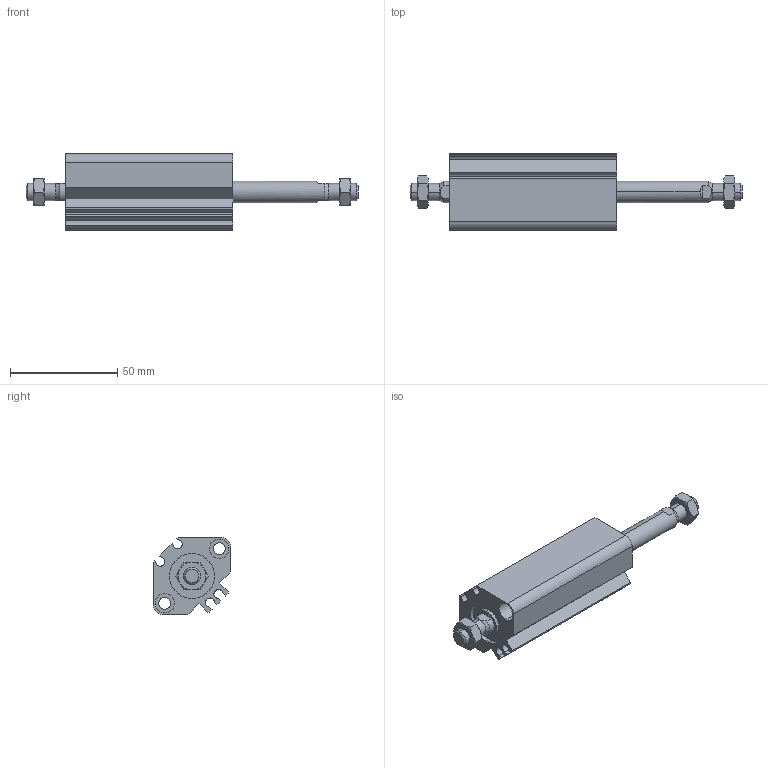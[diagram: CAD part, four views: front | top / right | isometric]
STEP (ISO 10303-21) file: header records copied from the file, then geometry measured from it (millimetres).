
FILE_DESCRIPTION (( 'STEP AP203' ), '1' );
FILE_NAME ('CCMB20-40M-P.STEP', '2020-08-10T11:22:17', ( '' ), ( '' ), 'SwSTEP 2.0', 'SolidWorks 2019', '' );
FILE_SCHEMA (( 'CONFIG_CONTROL_DESIGN' ));
Length unit declared in the file: millimetre
Products named in the file (1): CCMB20-40M-P
Bounding box: 155 x 36 x 36 mm (x, y, z)
Volume: 72479.3 mm3; surface area: 30154.9 mm2
Topology: 4 solids, 4 shells, 166 faces, 384 edges, 240 vertices
Faces by surface type: plane 66, cylinder 56, cone 44
Entity records: 5367 total; most frequent: CARTESIAN_POINT 1507, DIRECTION 806, ORIENTED_EDGE 768, EDGE_CURVE 384, AXIS2_PLACEMENT_3D 319, VERTEX_POINT 240, EDGE_LOOP 190, LINE 168
